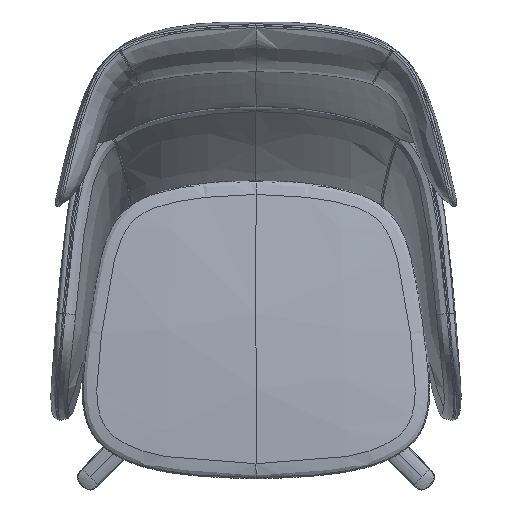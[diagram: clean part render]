
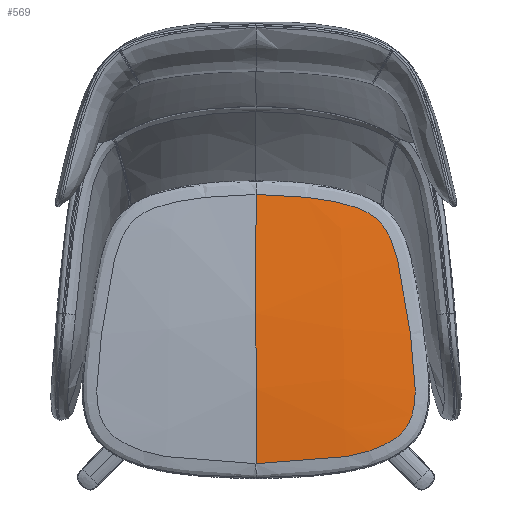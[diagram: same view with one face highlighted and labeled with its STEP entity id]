
A CAD part, top view. The second image highlights one B-rep face of the part: STEP entity #569.
In plain terms, the highlighted free-form (B-spline) face has degree [3, 3] with [9, 5] control points.
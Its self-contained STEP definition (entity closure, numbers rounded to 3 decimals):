
#170=B_SPLINE_SURFACE_WITH_KNOTS('',3,3,((#31163,#31164,#31165,#31166,#31167),
(#31168,#31169,#31170,#31171,#31172),(#31173,#31174,#31175,#31176,#31177),
(#31178,#31179,#31180,#31181,#31182),(#31183,#31184,#31185,#31186,#31187),
(#31188,#31189,#31190,#31191,#31192),(#31193,#31194,#31195,#31196,#31197),
(#31198,#31199,#31200,#31201,#31202),(#31203,#31204,#31205,#31206,#31207)),
 .UNSPECIFIED.,.F.,.F.,.F.,(4,1,1,1,1,1,4),(4,1,4),(0.,83.449,
166.899,250.348,333.797,417.247,500.696),
(0.,142.741,285.482),.UNSPECIFIED.);
#569=ADVANCED_FACE('',(#877),#170,.T.);
#877=FACE_OUTER_BOUND('',#1185,.T.);
#1185=EDGE_LOOP('',(#2456,#2457));
#2456=ORIENTED_EDGE('',*,*,#3118,.T.);
#2457=ORIENTED_EDGE('',*,*,#3117,.T.);
#3117=EDGE_CURVE('',#3727,#3726,#4275,.T.);
#3118=EDGE_CURVE('',#3726,#3727,#4276,.T.);
#3726=VERTEX_POINT('',#32091);
#3727=VERTEX_POINT('',#32092);
#4275=B_SPLINE_CURVE_WITH_KNOTS('',3,(#32205,#32206,#32207,#32208,#32209,
#32210,#32211,#32212,#32213),.UNSPECIFIED.,.F.,.F.,(4,1,1,1,1,1,4),(-474.18,
-417.247,-333.797,-250.348,-166.899,-83.449,
-27.123),.UNSPECIFIED.);
#4276=B_SPLINE_CURVE_WITH_KNOTS('',3,(#32214,#32215,#32216,#32217,#32218,
#32219,#32220,#32221,#32222,#32223,#32224,#32225,#32226,#32227,#32228,#32229,
#32230,#32231,#32232,#32233,#32234,#32235,#32236,#32237,#32238,#32239,#32240,
#32241,#32242,#32243,#32244,#32245,#32246,#32247,#32248,#32249,#32250,#32251),
 .UNSPECIFIED.,.F.,.F.,(4,1,1,1,1,1,1,1,1,1,1,1,1,1,1,1,1,1,1,1,1,1,1,1,
1,1,1,1,1,1,1,1,1,1,1,4),(0.,74.102,112.748,154.424,
192.525,214.792,232.095,245.22,256.268,
263.231,270.492,282.04,294.959,312.087,
324.989,345.938,375.178,394.6,433.998,
474.064,495.025,522.099,558.984,574.441,
583.826,599.863,611.407,622.834,635.318,
648.378,662.906,685.56,722.309,760.825,
798.113,834.844),.UNSPECIFIED.);
#31163=CARTESIAN_POINT('',(293.441,-278.96,418.532));
#31164=CARTESIAN_POINT('',(244.578,-279.806,420.82));
#31165=CARTESIAN_POINT('',(146.791,-281.076,424.253));
#31166=CARTESIAN_POINT('',(48.931,-281.499,425.398));
#31167=CARTESIAN_POINT('',(0.,-281.499,425.398));
#31168=CARTESIAN_POINT('',(293.711,-251.33,417.938));
#31169=CARTESIAN_POINT('',(244.804,-252.084,421.13));
#31170=CARTESIAN_POINT('',(146.927,-253.216,425.92));
#31171=CARTESIAN_POINT('',(48.977,-253.593,427.517));
#31172=CARTESIAN_POINT('',(0.,-253.593,427.517));
#31173=CARTESIAN_POINT('',(293.865,-196.081,416.29));
#31174=CARTESIAN_POINT('',(244.933,-196.593,420.786));
#31175=CARTESIAN_POINT('',(147.006,-197.362,427.532));
#31176=CARTESIAN_POINT('',(49.003,-197.618,429.782));
#31177=CARTESIAN_POINT('',(0.,-197.618,429.782));
#31178=CARTESIAN_POINT('',(292.931,-113.227,412.438));
#31179=CARTESIAN_POINT('',(244.156,-113.367,417.778));
#31180=CARTESIAN_POINT('',(146.541,-113.576,425.789));
#31181=CARTESIAN_POINT('',(48.848,-113.646,428.461));
#31182=CARTESIAN_POINT('',(0.,-113.646,428.461));
#31183=CARTESIAN_POINT('',(290.831,-30.47,407.209));
#31184=CARTESIAN_POINT('',(242.408,-30.24,412.688));
#31185=CARTESIAN_POINT('',(145.493,-29.895,420.909));
#31186=CARTESIAN_POINT('',(48.499,-29.779,423.65));
#31187=CARTESIAN_POINT('',(0.,-29.779,423.65));
#31188=CARTESIAN_POINT('',(287.567,52.155,400.605));
#31189=CARTESIAN_POINT('',(239.689,52.736,405.943));
#31190=CARTESIAN_POINT('',(143.864,53.607,413.952));
#31191=CARTESIAN_POINT('',(47.956,53.898,416.622));
#31192=CARTESIAN_POINT('',(0.,53.898,416.622));
#31193=CARTESIAN_POINT('',(283.142,134.589,392.631));
#31194=CARTESIAN_POINT('',(236.003,135.475,397.155));
#31195=CARTESIAN_POINT('',(141.653,136.805,403.943));
#31196=CARTESIAN_POINT('',(47.219,137.248,406.207));
#31197=CARTESIAN_POINT('',(0.,137.248,406.207));
#31198=CARTESIAN_POINT('',(279.422,189.362,386.408));
#31199=CARTESIAN_POINT('',(232.904,190.364,389.672));
#31200=CARTESIAN_POINT('',(139.795,191.867,394.568));
#31201=CARTESIAN_POINT('',(46.6,192.369,396.201));
#31202=CARTESIAN_POINT('',(0.,192.369,396.201));
#31203=CARTESIAN_POINT('',(277.369,216.711,383.07));
#31204=CARTESIAN_POINT('',(231.193,217.713,385.464));
#31205=CARTESIAN_POINT('',(138.769,219.217,389.058));
#31206=CARTESIAN_POINT('',(46.258,219.719,390.256));
#31207=CARTESIAN_POINT('',(0.,219.719,390.256));
#32091=CARTESIAN_POINT('',(0.,-254.266,427.159));
#32092=CARTESIAN_POINT('',(0.,193.587,395.644));
#32205=CARTESIAN_POINT('',(0.,193.587,395.644));
#32206=CARTESIAN_POINT('',(0.,174.843,399.303));
#32207=CARTESIAN_POINT('',(0.,128.42,407.31));
#32208=CARTESIAN_POINT('',(0.,53.898,416.622));
#32209=CARTESIAN_POINT('',(0.,-29.779,423.65));
#32210=CARTESIAN_POINT('',(0.,-113.646,428.461));
#32211=CARTESIAN_POINT('',(0.,-188.52,429.639));
#32212=CARTESIAN_POINT('',(0.,-235.4,428.17));
#32213=CARTESIAN_POINT('',(0.,-254.266,427.159));
#32214=CARTESIAN_POINT('',(0.,-254.266,427.159));
#32215=CARTESIAN_POINT('',(24.702,-254.273,427.157));
#32216=CARTESIAN_POINT('',(62.281,-252.978,426.932));
#32217=CARTESIAN_POINT('',(113.565,-248.479,426.062));
#32218=CARTESIAN_POINT('',(152.657,-242.898,425.052));
#32219=CARTESIAN_POINT('',(185.712,-234.669,423.831));
#32220=CARTESIAN_POINT('',(209.837,-225.227,422.629));
#32221=CARTESIAN_POINT('',(225.332,-216.933,421.674));
#32222=CARTESIAN_POINT('',(236.602,-208.925,420.84));
#32223=CARTESIAN_POINT('',(244.145,-201.78,420.179));
#32224=CARTESIAN_POINT('',(249.409,-195.21,419.641));
#32225=CARTESIAN_POINT('',(253.974,-187.935,419.101));
#32226=CARTESIAN_POINT('',(258.304,-178.271,418.461));
#32227=CARTESIAN_POINT('',(262.075,-164.922,417.674));
#32228=CARTESIAN_POINT('',(264.173,-150.752,416.918));
#32229=CARTESIAN_POINT('',(265.179,-133.804,416.066));
#32230=CARTESIAN_POINT('',(265.,-112.786,415.039));
#32231=CARTESIAN_POINT('',(263.236,-89.666,413.907));
#32232=CARTESIAN_POINT('',(260.014,-60.528,412.402));
#32233=CARTESIAN_POINT('',(255.737,-27.895,410.543));
#32234=CARTESIAN_POINT('',(250.667,5.127,408.418));
#32235=CARTESIAN_POINT('',(245.782,34.013,406.36));
#32236=CARTESIAN_POINT('',(240.733,61.778,404.215));
#32237=CARTESIAN_POINT('',(235.112,87.581,402.034));
#32238=CARTESIAN_POINT('',(228.979,107.16,400.327));
#32239=CARTESIAN_POINT('',(224.098,119.838,399.221));
#32240=CARTESIAN_POINT('',(218.705,130.911,398.268));
#32241=CARTESIAN_POINT('',(211.38,141.653,397.401));
#32242=CARTESIAN_POINT('',(203.468,150.45,396.746));
#32243=CARTESIAN_POINT('',(193.965,158.328,396.231));
#32244=CARTESIAN_POINT('',(182.55,165.315,395.858));
#32245=CARTESIAN_POINT('',(167.24,172.172,395.604));
#32246=CARTESIAN_POINT('',(143.677,179.532,395.482));
#32247=CARTESIAN_POINT('',(111.593,185.742,395.547));
#32248=CARTESIAN_POINT('',(74.341,190.28,395.628));
#32249=CARTESIAN_POINT('',(36.918,193.015,395.639));
#32250=CARTESIAN_POINT('',(12.243,193.586,395.644));
#32251=CARTESIAN_POINT('',(0.,193.587,395.644));
